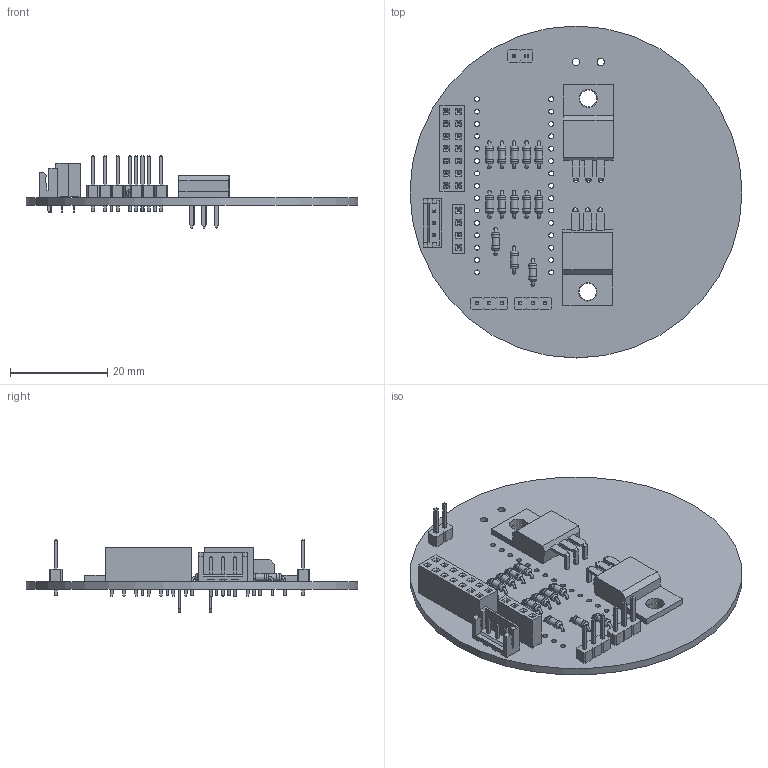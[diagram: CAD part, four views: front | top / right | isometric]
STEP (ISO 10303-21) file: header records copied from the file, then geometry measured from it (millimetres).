
FILE_DESCRIPTION(('KiCad electronic assembly'),'2;1');
FILE_NAME('MichaelBoard.step','2020-08-11T20:47:51',('An Author'),( 'A Company'),'Open CASCADE STEP processor 6.9', 'KiCad to STEP converter','Unknown');
FILE_SCHEMA(('AUTOMOTIVE_DESIGN { 1 0 10303 214 1 1 1 1 }'));
Length unit declared in the file: millimetre
Products named in the file (16): Open CASCADE STEP translator 6.9 1; TO-220-3_Horizontal_TabDown; SOLID; R_Axial_DIN0204_L3.6mm_D1.6mm_P5.08mm_Horizontal; PinHeader_1x03_P2.54mm_Vertical; JST_EH_B3B-EH-A_1x03_P2.50mm_Vertical; PinSocket_1x04_P2.54mm_Vertical; PinHeader_1x02_P2.54mm_Vertical; PinSocket_2x07_P2.54mm_Vertical; COMPOUND
Assembly tree (29 placements, depth 3):
  Open CASCADE STEP translator 6.9 1
    TO-220-3_Horizontal_TabDown  x2
      SOLID
    R_Axial_DIN0204_L3.6mm_D1.6mm_P5.08mm_Horizontal  x13
      SOLID
    PinHeader_1x03_P2.54mm_Vertical  x2
      SOLID
    JST_EH_B3B-EH-A_1x03_P2.50mm_Vertical
      SOLID
    PinSocket_1x04_P2.54mm_Vertical
      SOLID
    PinHeader_1x02_P2.54mm_Vertical
      SOLID
    PinSocket_2x07_P2.54mm_Vertical
      SOLID
    COMPOUND
Bounding box: 68.16 x 68.16 x 14.87 mm (x, y, z)
Volume: 7808.8 mm3; surface area: 11455 mm2
Topology: 22 solids, 22 shells, 1339 faces, 3249 edges, 2082 vertices
Faces by surface type: plane 1118, cylinder 169, torus 52
Full cylindrical faces by diameter (mm): 0.5 x26, 0.7 x26, 0.95 x3, 1 x56, 1.1 x6, 1.44 x13, 1.52 x2, 1.6 x26, 3.5 x2, 3.735 x2, 68.155 x1
Entity records: 71362 total; most frequent: CARTESIAN_POINT 11298, DIRECTION 10016, LINE 7317, VECTOR 7317, ORIENTED_EDGE 5166, PCURVE 5166, DEFINITIONAL_REPRESENTATION 5166, EDGE_CURVE 2583
